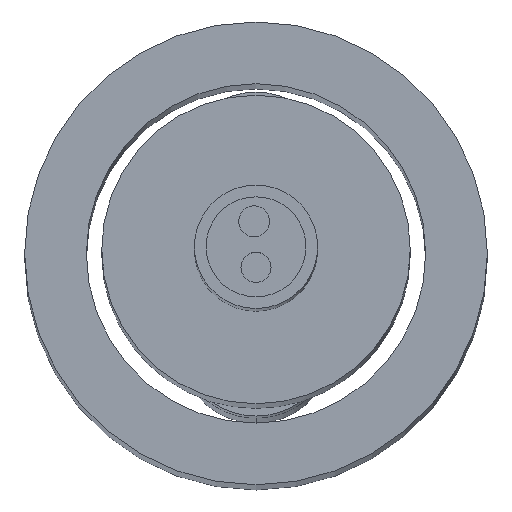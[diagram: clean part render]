
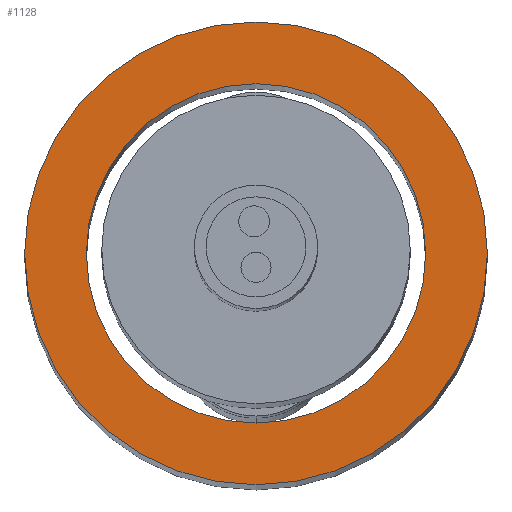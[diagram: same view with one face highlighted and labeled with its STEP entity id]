
A CAD part, top view. The second image highlights one B-rep face of the part: STEP entity #1128.
In plain terms, the highlighted planar face has unit normal (0, 0, 1).
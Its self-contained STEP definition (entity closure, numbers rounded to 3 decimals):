
#1031=CARTESIAN_POINT('',(0.,0.,2.5));
#1032=DIRECTION('',(0.,0.,1.));
#1033=DIRECTION('',(1.,0.,0.));
#1034=AXIS2_PLACEMENT_3D('',#1031,#1032,#1033);
#1036=CARTESIAN_POINT('',(0.,0.,2.5));
#1037=DIRECTION('',(0.,0.,1.));
#1038=DIRECTION('',(-1.,0.,0.));
#1039=AXIS2_PLACEMENT_3D('',#1036,#1037,#1038);
#1041=CARTESIAN_POINT('',(0.,0.,2.5));
#1042=DIRECTION('',(0.,0.,-1.));
#1043=DIRECTION('',(-1.,0.,0.));
#1044=AXIS2_PLACEMENT_3D('',#1041,#1042,#1043);
#1046=CARTESIAN_POINT('',(0.,0.,2.5));
#1047=DIRECTION('',(0.,0.,-1.));
#1048=DIRECTION('',(1.,0.,0.));
#1049=AXIS2_PLACEMENT_3D('',#1046,#1047,#1048);
#1067=CARTESIAN_POINT('',(1.1,0.,2.5));
#1068=VERTEX_POINT('',#1067);
#1069=CARTESIAN_POINT('',(-1.1,0.,2.5));
#1070=VERTEX_POINT('',#1069);
#1071=CARTESIAN_POINT('',(1.5,0.,2.5));
#1072=CARTESIAN_POINT('',(-1.5,0.,2.5));
#1073=VERTEX_POINT('',#1071);
#1074=VERTEX_POINT('',#1072);
#1112=CARTESIAN_POINT('',(1.1,0.,2.5));
#1113=DIRECTION('',(0.,0.,1.));
#1114=DIRECTION('',(1.,0.,0.));
#1115=AXIS2_PLACEMENT_3D('',#1112,#1113,#1114);
#1116=PLANE('',#1115);
#1117=ORIENTED_EDGE('',*,*,#1102,.F.);
#1119=ORIENTED_EDGE('',*,*,#1118,.F.);
#1120=EDGE_LOOP('',(#1117,#1119));
#1121=FACE_OUTER_BOUND('',#1120,.F.);
#1123=ORIENTED_EDGE('',*,*,#1122,.F.);
#1125=ORIENTED_EDGE('',*,*,#1124,.F.);
#1126=EDGE_LOOP('',(#1123,#1125));
#1127=FACE_BOUND('',#1126,.F.);
#1035=CIRCLE('',#1034,1.5);
#1040=CIRCLE('',#1039,1.5);
#1045=CIRCLE('',#1044,1.1);
#1050=CIRCLE('',#1049,1.1);
#1102=EDGE_CURVE('',#1073,#1074,#1035,.T.);
#1118=EDGE_CURVE('',#1074,#1073,#1040,.T.);
#1122=EDGE_CURVE('',#1070,#1068,#1045,.T.);
#1124=EDGE_CURVE('',#1068,#1070,#1050,.T.);
#1128=ADVANCED_FACE('',(#1121,#1127),#1116,.T.);
